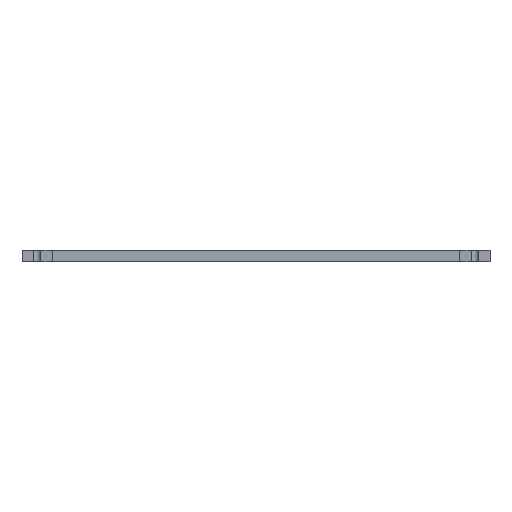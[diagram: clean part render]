
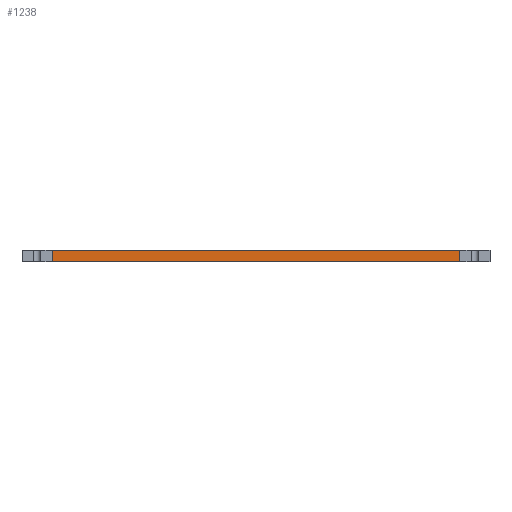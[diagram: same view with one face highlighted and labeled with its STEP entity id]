
A CAD part, front view. The second image highlights one B-rep face of the part: STEP entity #1238.
In plain terms, the highlighted planar face has unit normal (0, -1, 0).
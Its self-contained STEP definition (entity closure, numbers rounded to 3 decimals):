
#69=PLANE('',#1340);
#126=FACE_OUTER_BOUND('',#186,.T.);
#186=EDGE_LOOP('',(#1011,#1012,#1013,#1014));
#334=LINE('',#1958,#480);
#335=LINE('',#1961,#481);
#336=LINE('',#1963,#482);
#337=LINE('',#1964,#483);
#480=VECTOR('',#1610,10.);
#481=VECTOR('',#1613,10.);
#482=VECTOR('',#1614,10.);
#483=VECTOR('',#1615,10.);
#631=VERTEX_POINT('',#1954);
#632=VERTEX_POINT('',#1956);
#633=VERTEX_POINT('',#1960);
#634=VERTEX_POINT('',#1962);
#792=EDGE_CURVE('',#631,#632,#334,.T.);
#793=EDGE_CURVE('',#633,#631,#335,.T.);
#794=EDGE_CURVE('',#634,#632,#336,.T.);
#795=EDGE_CURVE('',#633,#634,#337,.T.);
#1011=ORIENTED_EDGE('',*,*,#793,.T.);
#1012=ORIENTED_EDGE('',*,*,#792,.T.);
#1013=ORIENTED_EDGE('',*,*,#794,.F.);
#1014=ORIENTED_EDGE('',*,*,#795,.F.);
#1238=ADVANCED_FACE('',(#126),#69,.T.);
#1340=AXIS2_PLACEMENT_3D('',#1959,#1611,#1612);
#1610=DIRECTION('',(0.,0.,1.));
#1611=DIRECTION('center_axis',(0.,-1.,0.));
#1612=DIRECTION('ref_axis',(1.,0.,0.));
#1613=DIRECTION('',(1.,0.,0.));
#1614=DIRECTION('',(1.,0.,0.));
#1615=DIRECTION('',(0.,0.,1.));
#1954=CARTESIAN_POINT('',(58.5,-95.,0.));
#1956=CARTESIAN_POINT('',(58.5,-95.,2.5));
#1958=CARTESIAN_POINT('',(58.5,-95.,0.));
#1959=CARTESIAN_POINT('Origin',(-28.5,-95.,0.));
#1960=CARTESIAN_POINT('',(-28.5,-95.,0.));
#1961=CARTESIAN_POINT('',(-30.,-95.,0.));
#1962=CARTESIAN_POINT('',(-28.5,-95.,2.5));
#1963=CARTESIAN_POINT('',(-30.,-95.,2.5));
#1964=CARTESIAN_POINT('',(-28.5,-95.,0.));
